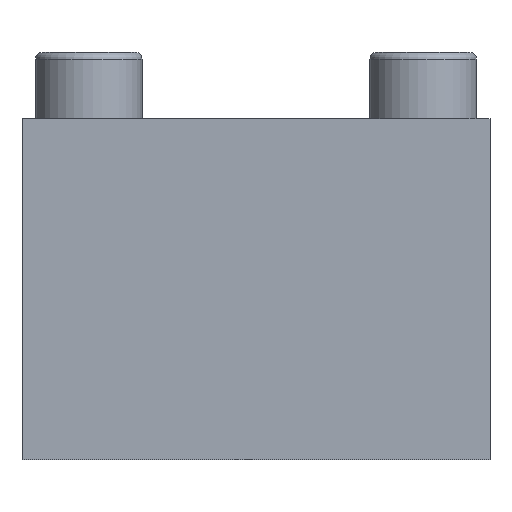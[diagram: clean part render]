
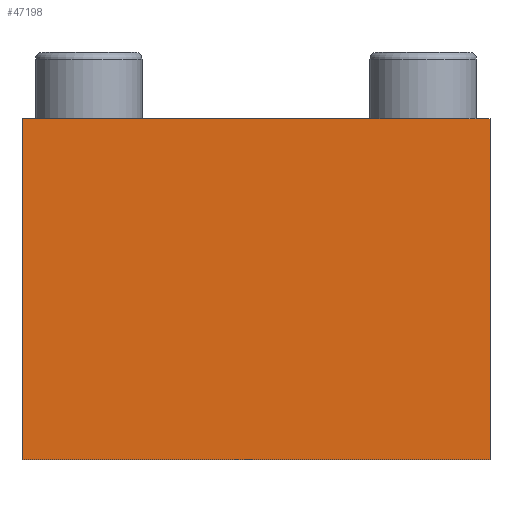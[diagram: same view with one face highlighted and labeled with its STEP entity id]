
A CAD part, front view. The second image highlights one B-rep face of the part: STEP entity #47198.
In plain terms, the highlighted planar face has unit normal (0, -1, 0).
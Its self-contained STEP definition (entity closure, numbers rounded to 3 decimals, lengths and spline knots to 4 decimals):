
#5028=FACE_OUTER_BOUND('',#7554,.T.);
#7554=EDGE_LOOP('',(#32013,#32014,#32015,#32016));
#10397=LINE('',#60885,#15553);
#10401=LINE('',#60894,#15557);
#10402=LINE('',#60895,#15558);
#10403=LINE('',#60896,#15559);
#15553=VECTOR('',#51737,5.1);
#15557=VECTOR('',#51743,5.1);
#15558=VECTOR('',#51744,7.);
#15559=VECTOR('',#51745,7.);
#20817=VERTEX_POINT('',#60883);
#20818=VERTEX_POINT('',#60884);
#20821=VERTEX_POINT('',#60892);
#20822=VERTEX_POINT('',#60893);
#25309=EDGE_CURVE('',#20817,#20818,#10397,.T.);
#25313=EDGE_CURVE('',#20821,#20822,#10401,.T.);
#25314=EDGE_CURVE('',#20817,#20821,#10402,.T.);
#25315=EDGE_CURVE('',#20822,#20818,#10403,.T.);
#32013=ORIENTED_EDGE('',*,*,#25313,.F.);
#32014=ORIENTED_EDGE('',*,*,#25314,.F.);
#32015=ORIENTED_EDGE('',*,*,#25309,.T.);
#32016=ORIENTED_EDGE('',*,*,#25315,.F.);
#45404=PLANE('',#49730);
#47198=ADVANCED_FACE('',(#5028),#45404,.T.);
#49730=AXIS2_PLACEMENT_3D('',#60891,#51741,#51742);
#51737=DIRECTION('',(0.,0.,-1.));
#51741=DIRECTION('center_axis',(0.,-1.,0.));
#51742=DIRECTION('ref_axis',(-1.,0.,0.));
#51743=DIRECTION('',(0.,0.,-1.));
#51744=DIRECTION('',(1.,0.,0.));
#51745=DIRECTION('',(-1.,0.,0.));
#60883=CARTESIAN_POINT('',(-3.5,-15.,4.1));
#60884=CARTESIAN_POINT('',(-3.5,-15.,-1.));
#60885=CARTESIAN_POINT('',(-3.5,-15.,0.));
#60891=CARTESIAN_POINT('Origin',(3.5,-15.,3.1));
#60892=CARTESIAN_POINT('',(3.5,-15.,4.1));
#60893=CARTESIAN_POINT('',(3.5,-15.,-1.));
#60894=CARTESIAN_POINT('',(3.5,-15.,0.));
#60895=CARTESIAN_POINT('',(3.5,-15.,4.1));
#60896=CARTESIAN_POINT('',(3.5,-15.,-1.));
